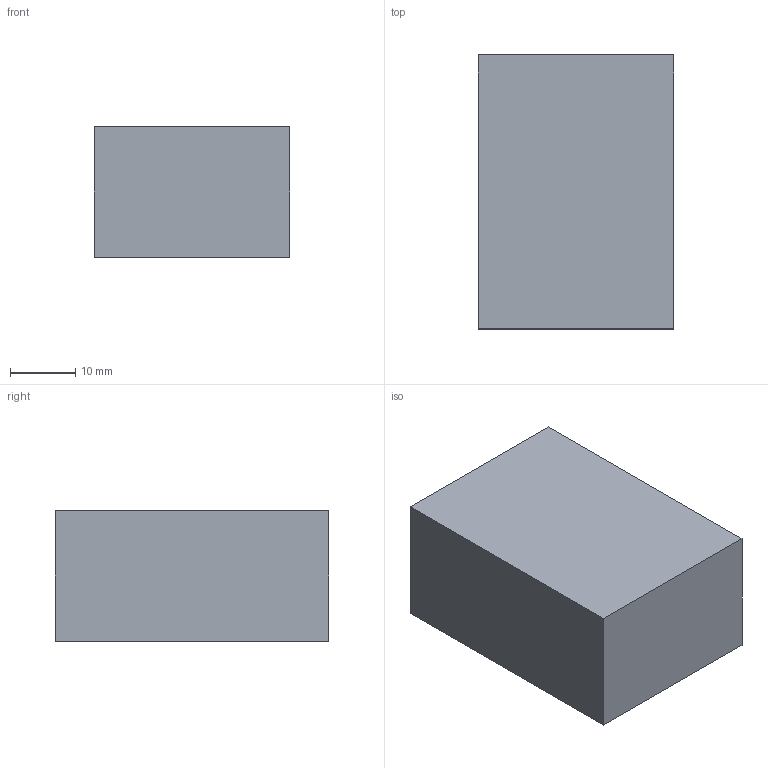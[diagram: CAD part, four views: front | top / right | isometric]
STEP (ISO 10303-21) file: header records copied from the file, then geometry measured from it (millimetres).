
FILE_DESCRIPTION(('Open CASCADE Model'),'2;1');
FILE_NAME('Open CASCADE Shape Model','2026-10-04T02:31:38',('Author'),( 'Open CASCADE'),'Open CASCADE STEP processor 8.0','Open CASCADE 8.0' ,'Unknown');
FILE_SCHEMA(('AUTOMOTIVE_DESIGN { 1 0 10303 214 1 1 1 1 }'));
Length unit declared in the file: millimetre
Products named in the file (1): Open CASCADE STEP translator 8.0 141
Bounding box: 30 x 42 x 20 mm (x, y, z)
Volume: 25200 mm3; surface area: 5400 mm2
Topology: 1 solids, 1 shells, 6 faces, 12 edges, 8 vertices
Faces by surface type: plane 6
Entity records: 322 total; most frequent: CARTESIAN_POINT 51, DIRECTION 50, LINE 36, VECTOR 36, ORIENTED_EDGE 24, PCURVE 24, DEFINITIONAL_REPRESENTATION 24, EDGE_CURVE 12
